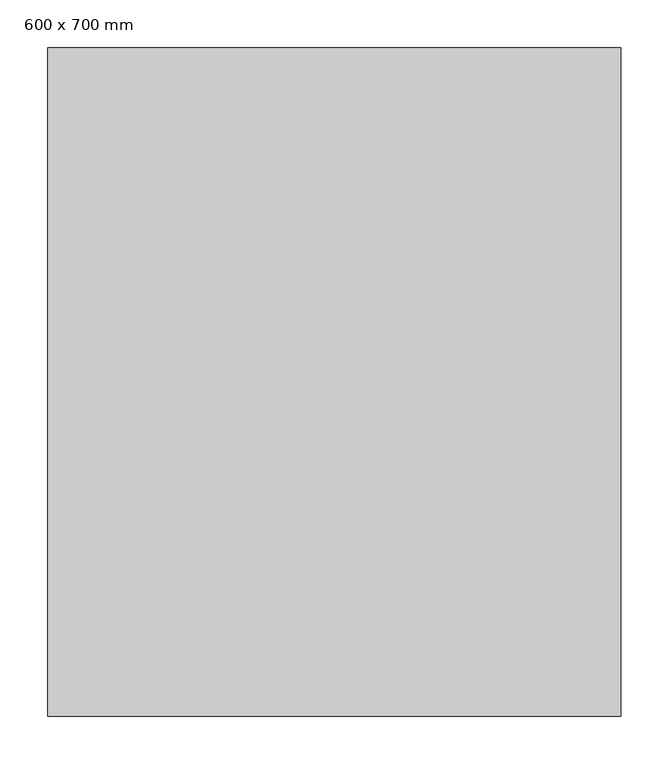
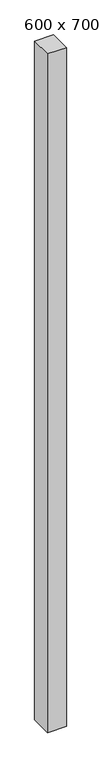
"""IFC4 building model written with IfcOpenShell, lengths in millimetres: column geometry, 预制-矩形柱 : 600 x 700 mm."""

from ifc_helpers import new_model, si_unit, frame, origin, place, context, project, spatial, polyline, outline, extrude, source, transform, mapped, element, save


def column_600_x_700_mm_fc09930c(model_context):
    return source(origin(), model_context, "Body", "SweptSolid", [
        extrude(outline(polyline([(300.0, 350.0), (300.0, -350.0), (-300.0, -350.0), (-300.0, 350.0), (300.0, 350.0)])), frame((0.0, 0.0, -3900.0), z_axis=(0.0, 0.0, 1.0), x_axis=(1.0, 0.0, 0.0)), (0.0, 0.0, 1.0), 22800.0),
    ])


if __name__ == "__main__":
    model = new_model("IFC4")
    model_context = context("Model", 3, world=origin())
    ifc_project = project(units=[si_unit("LENGTHUNIT", "METRE", prefix="MILLI")], contexts=[model_context])
    site = spatial("IfcSite", under=ifc_project)
    building = spatial("IfcBuilding", under=site)
    placement = place(None, origin())
    column_600_x_700_mm_shape = column_600_x_700_mm_fc09930c(model_context)
    element("IfcColumn", 1, ObjectType="预制-矩形柱 : 600 x 700 mm", at=placement, inside=building, context=model_context, shape_type="MappedRepresentation", body=[
        mapped(column_600_x_700_mm_shape, transform((0.0, 0.0, 0.0), x_axis=(1.0, 0.0, 0.0), y_axis=(0.0, 1.0, 0.0), z_axis=(0.0, 0.0, 1.0))),
    ])
    save(model, "model.ifc")
